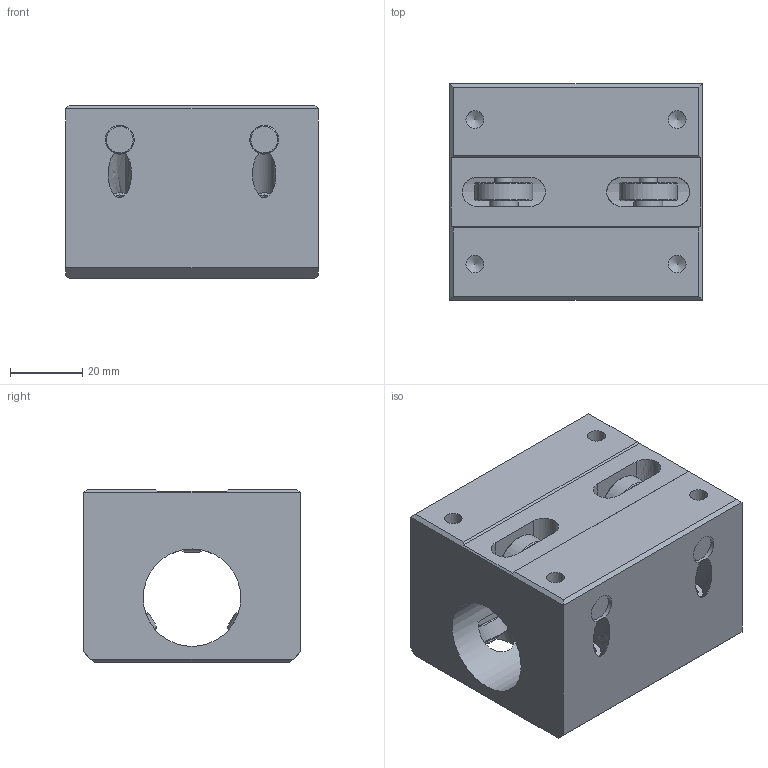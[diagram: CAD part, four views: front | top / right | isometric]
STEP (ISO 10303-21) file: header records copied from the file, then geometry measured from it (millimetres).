
FILE_DESCRIPTION((''),'2;1');
FILE_NAME('D:\製品 (図面)\カタログ用3D\リニアガイド関連\STEP形式\SLHB\SLHB25.stp','2010-06-02T17:06:28',('Tsuchiya'),(''),'Autodesk Inventor 10','Autodesk Inventor 10','');
FILE_SCHEMA(('AUTOMOTIVE_DESIGN { 1 0 10303 214 1 1 1 1 }'));
Length unit declared in the file: millimetre
Products named in the file (1): SLHB25
Bounding box: 70 x 60 x 48 mm (x, y, z)
Volume: 145756.9 mm3; surface area: 34255.2 mm2
Topology: 1 solids, 1 shells, 175 faces, 409 edges, 264 vertices
Faces by surface type: bspline 72, plane 56, cylinder 24, cone 20, torus 3
Full cylindrical faces by diameter (mm): 4.917 x2, 5 x3, 5.5 x3, 6.5 x3, 8 x4, 16 x3, 18 x2, 27 x1
Entity records: 5278 total; most frequent: CARTESIAN_POINT 2013, ORIENTED_EDGE 600, DIRECTION 578, EDGE_CURVE 300, EDGE_LOOP 296, VERTEX_POINT 230, AXIS2_PLACEMENT_3D 220, FACE_OUTER_BOUND 175
